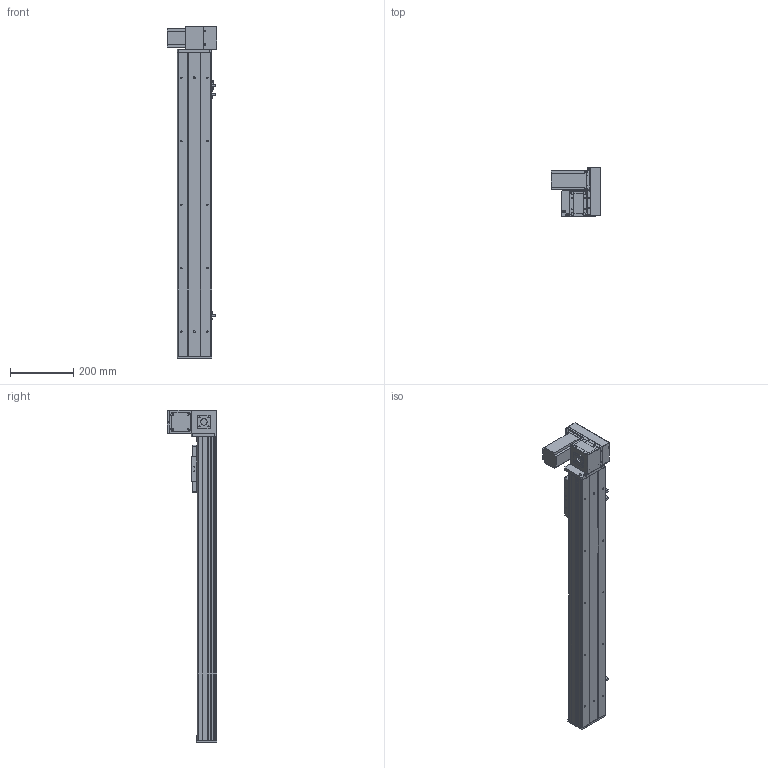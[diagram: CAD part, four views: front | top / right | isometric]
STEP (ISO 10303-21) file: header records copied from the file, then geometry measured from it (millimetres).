
FILE_DESCRIPTION (( 'STEP AP203' ), '1' );
FILE_NAME ('Y10CB-D90-S700-UR-P400W.STEP', '2020-02-16T03:25:42', ( '微软用户' ), ( '微软中国' ), 'SwSTEP 2.0', 'SolidWorks 2017', '' );
FILE_SCHEMA (( 'CONFIG_CONTROL_DESIGN' ));
Length unit declared in the file: millimetre
Products named in the file (18): 10CB-耜裔; 0B-萇儂楊擘啣; Y135C-陔俋离換覜結え-; san松下电机400不带刹车----; Y100-135俋离換覜ん--; 0B-源倛裔啣; Y10B--々湍喘謫眊--666; 0B-埴倛裔啣; Y10B-耜蚾蟀諉啣----; 10CB-詩湍-; 00B-俋欶BM--; Y10CB- 掛极耜裔啣-毀---; 0CB-雄赽釱---; Y10CB-D90-S700-UR-P400W; Y10C---詩湍揤啣; 0Cb-俋欶---; 10CB9-掛极; Y10B-々湍喘謫眊楊擘啣--
Assembly tree (21 placements, depth 2):
  Y10CB-D90-S700-UR-P400W
    0CB-雄赽釱---
    0Cb-俋欶---
    Y10B-々湍喘謫眊楊擘啣--
    0B-萇儂楊擘啣
    san松下电机400不带刹车----
    0B-源倛裔啣
    0B-埴倛裔啣
    10CB-詩湍-
    Y10CB- 掛极耜裔啣-毀---  x2
    Y10C---詩湍揤啣  x2
    10CB9-掛极
    10CB-耜裔
    Y135C-陔俋离換覜結え-
    Y100-135俋离換覜ん--  x3
    Y10B--々湍喘謫眊--666
    Y10B-耜蚾蟀諉啣----
    00B-俋欶BM--
Bounding box: 157 x 155.5 x 1046 mm (x, y, z)
Volume: 2612573.8 mm3; surface area: 1147331.3 mm2
Topology: 21 solids, 21 shells, 966 faces, 2563 edges, 1682 vertices
Faces by surface type: plane 473, cylinder 469, cone 24
Entity records: 29912 total; most frequent: CARTESIAN_POINT 5173, DIRECTION 4862, ORIENTED_EDGE 4596, EDGE_CURVE 2298, AXIS2_PLACEMENT_3D 1741, VERTEX_POINT 1508, LINE 1380, VECTOR 1380
